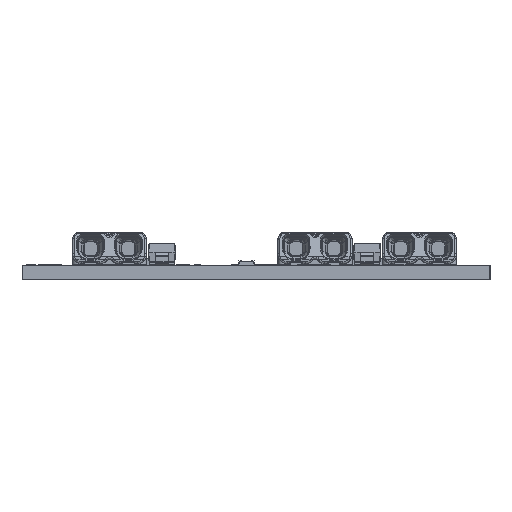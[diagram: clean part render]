
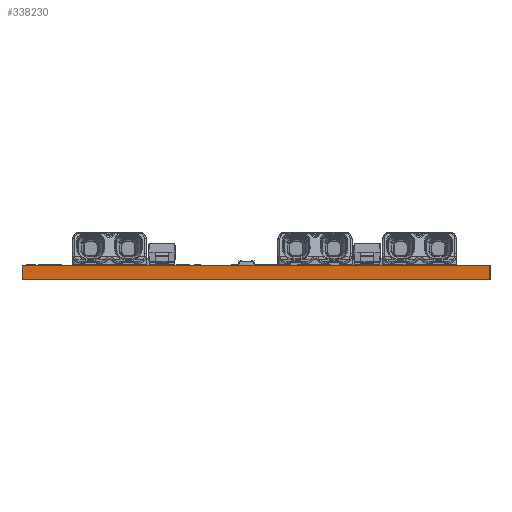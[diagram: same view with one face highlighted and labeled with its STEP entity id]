
A CAD part, left-side view. The second image highlights one B-rep face of the part: STEP entity #338230.
In plain terms, the highlighted planar face has unit normal (-1, 0, 0).
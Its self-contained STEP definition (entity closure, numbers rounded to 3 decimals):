
#335320=CARTESIAN_POINT('',(0.,49.5,0.));
#335330=VERTEX_POINT('',#335320);
#335480=CARTESIAN_POINT('',(0.,0.,0.));
#335490=VERTEX_POINT('',#335480);
#335520=CARTESIAN_POINT('',(0.,49.5,0.));
#335530=DIRECTION('',(0.,-1.,0.));
#335540=VECTOR('',#335530,1.);
#335550=LINE('',#335520,#335540);
#335560=EDGE_CURVE('',#335330,#335490,#335550,.T.);
#337930=CARTESIAN_POINT('',(0.,0.,0.));
#337940=DIRECTION('',(1.,0.,0.));
#337950=DIRECTION('',(0.,-1.,0.));
#337960=AXIS2_PLACEMENT_3D('',#337930,#337940,#337950);
#337970=PLANE('',#337960);
#337980=ORIENTED_EDGE('',*,*,#335560,.F.);
#337990=CARTESIAN_POINT('',(0.,0.,-1.5));
#338000=DIRECTION('',(0.,0.,1.));
#338010=VECTOR('',#338000,1.);
#338020=LINE('',#337990,#338010);
#338030=CARTESIAN_POINT('',(0.,0.,
-1.5));
#338040=VERTEX_POINT('',#338030);
#338050=EDGE_CURVE('',#338040,#335490,#338020,.T.);
#338060=ORIENTED_EDGE('',*,*,#338050,.T.);
#338070=CARTESIAN_POINT('',(0.,49.5,-1.5)
);
#338080=DIRECTION('',(0.,-1.,0.));
#338090=VECTOR('',#338080,1.);
#338100=LINE('',#338070,#338090);
#338110=CARTESIAN_POINT('',(0.,49.5,-1.5)
);
#338120=VERTEX_POINT('',#338110);
#338130=EDGE_CURVE('',#338120,#338040,#338100,.T.);
#338140=ORIENTED_EDGE('',*,*,#338130,.T.);
#338150=CARTESIAN_POINT('',(0.,49.5,-1.5)
);
#338160=DIRECTION('',(0.,0.,1.));
#338170=VECTOR('',#338160,1.);
#338180=LINE('',#338150,#338170);
#338190=EDGE_CURVE('',#338120,#335330,#338180,.T.);
#338200=ORIENTED_EDGE('',*,*,#338190,.F.);
#338210=EDGE_LOOP('',(#338200,#338140,#338060,#337980));
#338220=FACE_OUTER_BOUND('',#338210,.T.);
#338230=ADVANCED_FACE('',(#338220),#337970,.F.);
